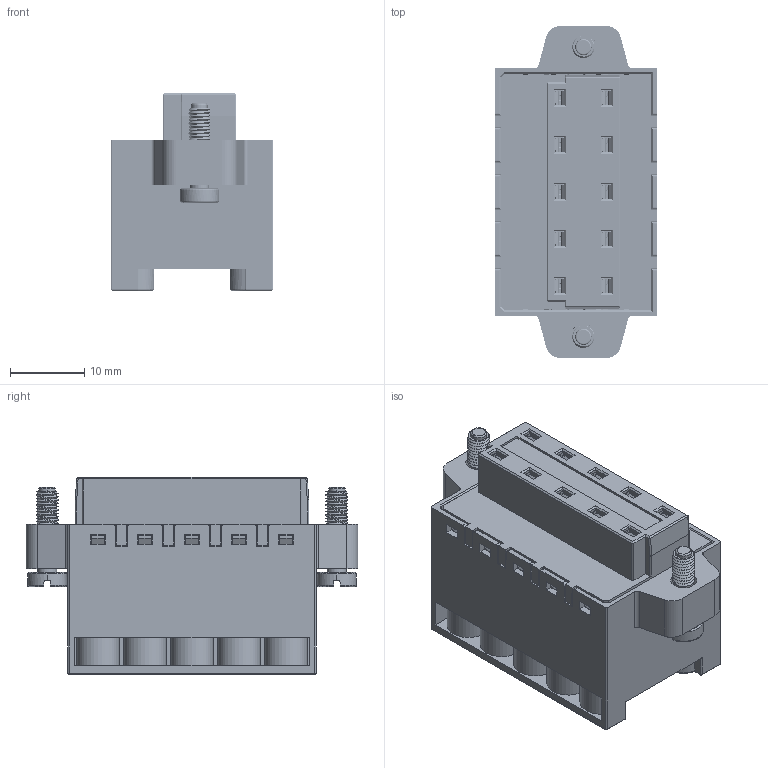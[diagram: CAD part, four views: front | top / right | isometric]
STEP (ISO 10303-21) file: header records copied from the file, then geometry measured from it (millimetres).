
FILE_DESCRIPTION((''),'2;1');
FILE_NAME('ASM0002_ASM','2022-06-28T',('renkang.li'),(''),'CREO PARAMETRIC BY PTC INC, 2016260','CREO PARAMETRIC BY PTC INC, 2016260','');
FILE_SCHEMA(('CONFIG_CONTROL_DESIGN'));
Products named in the file (1): ASM0002_ASM
Bounding box: 22 x 44.85 x 26.65 mm (x, y, z)
Volume: 10086.3 mm3; surface area: 23644.2 mm2
Topology: 8 solids, 8 shells, 4576 faces, 13259 edges, 8595 vertices
Faces by surface type: plane 2770, cylinder 1384, torus 152, bspline 140, cone 82, sphere 48
Entity records: 177295 total; most frequent: CARTESIAN_POINT 56910, ORIENTED_EDGE 26498, DIRECTION 23673, EDGE_CURVE 13249, VECTOR 9201, LINE 9201, VERTEX_POINT 8595, AXIS2_PLACEMENT_3D 7236
